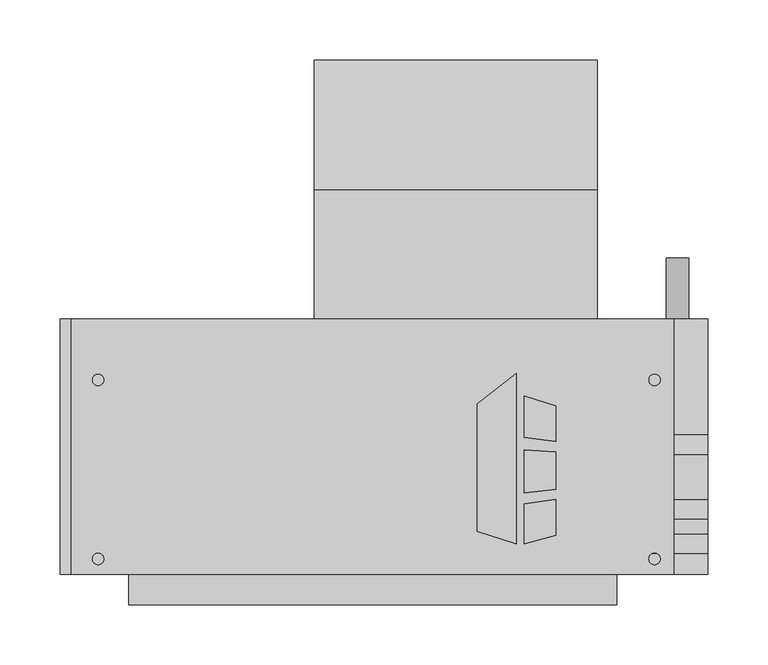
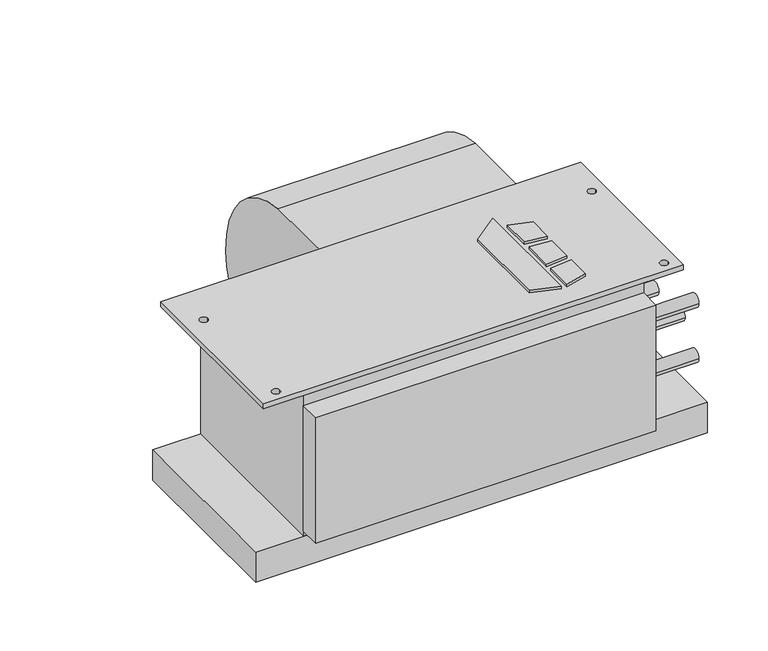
"""IFC4 building model written with IfcOpenShell, lengths in millimetres: proxy geometry, Concealed_Horizontal_Fan_Coil_Unit_-_CHY_-_IEC_-_4-Pipe_RH_2022 : Size 02 - 277v/60Hz/1Ph - 4/1 Coil."""

from ifc_helpers import new_model, si_unit, point, frame, frame_2d, origin, origin_with_axes, place, context, project, spatial, polyline, circle_curve, trimmed, segment, composite_curve, outline, extrude, source, transform, mapped, element, save


def mechanical_equipment_30e3efb8(model_context):
    return source(origin(), model_context, "Body", "SweptSolid", [
        extrude(outline(polyline([(239.4019761, -202.5703476), (271.9602728, -177.1330184), (271.9602728, -319.0875), (239.4019761, -308.8679201), (239.4019761, -202.5703476)])), origin_with_axes(), (0.0, 0.0, 1.0), 3.175),
        extrude(outline(polyline([(278.7186058, -230.442352), (278.7186058, -195.9624379), (304.8, -204.1490115), (304.8, -233.6447446), (278.7186058, -230.442352)])), origin_with_axes(), (0.0, 0.0, 1.0), 3.175),
        extrude(outline(polyline([(304.8, -312.0990115), (278.7186058, -319.0875), (278.7186058, -285.8661996), (304.8, -282.3243564), (304.8, -312.0990115)])), origin_with_axes(), (0.0, 0.0, 1.0), 3.175),
        extrude(outline(polyline([(304.8, -242.7263277), (304.8, -273.976483), (278.7186058, -276.717748), (278.7186058, -240.8600378), (304.8, -242.7263277)])), origin_with_axes(), (0.0, 0.0, 1.0), 3.175),
        extrude(outline(composite_curve([segment(trimmed(circle_curve(frame_2d((-33.198831, -136.0299844)), 117.3559541), [point((-23.8125, -19.05))], [point((84.1375, -138.176))], False, "CARTESIAN"), True, "CONTINUOUS"), segment(trimmed(circle_curve(frame_2d((-11.5977337, -136.4250563)), 95.7512443), [point((84.1375, -138.176))], [point((-23.8125, -231.394))], False, "CARTESIAN"), True, "CONTINUOUS"), segment(trimmed(circle_curve(frame_2d((-11.6288131, -136.6666968)), 95.5076133), [point((-23.8125, -231.394))], [point((-107.1245, -138.176))], False, "CARTESIAN"), True, "CONTINUOUS"), segment(trimmed(circle_curve(frame_2d((-126.2059828, -138.4775816)), 19.0838659), [point((-107.1245, -138.176))], [point((-119.3963373, -120.65))], True, "CARTESIAN"), True, "CONTINUOUS"), segment(polyline([(-119.3963373, -120.65), (-131.7625, -120.65), (-131.7625, -19.05), (-23.8125, -19.05)]), True, "CONTINUOUS")], self_intersect=False)), frame((104.013, 0.0, 0.0), z_axis=(1.0, 0.0, 0.0), x_axis=(0.0, 1.0, 0.0)), (0.0, 0.0, 1.0), 235.712),
        extrude(outline(polyline([(403.225, -131.7625), (403.225, -344.4875), (-98.425, -344.4875), (-98.425, -131.7625), (403.225, -131.7625)]), holes=[composite_curve([segment(trimmed(circle_curve(frame_2d((-76.2, -182.5625)), 4.7625), [point((-80.9625, -182.5625))], [point((-71.4375, -182.5625))], True, "CARTESIAN"), True, "CONTINUOUS"), segment(trimmed(circle_curve(frame_2d((-76.2, -182.5625)), 4.7625), [point((-71.4375, -182.5625))], [point((-80.9625, -182.5625))], True, "CARTESIAN"), True, "CONTINUOUS")], self_intersect=False), composite_curve([segment(trimmed(circle_curve(frame_2d((-76.2, -331.7875)), 4.7625), [point((-80.9625, -331.7875))], [point((-71.4375, -331.7875))], True, "CARTESIAN"), True, "CONTINUOUS"), segment(trimmed(circle_curve(frame_2d((-76.2, -331.7875)), 4.7625), [point((-71.4375, -331.7875))], [point((-80.9625, -331.7875))], True, "CARTESIAN"), True, "CONTINUOUS")], self_intersect=False), composite_curve([segment(trimmed(circle_curve(frame_2d((387.35, -182.5625)), 4.7625), [point((382.5875, -182.5625))], [point((392.1125, -182.5625))], True, "CARTESIAN"), True, "CONTINUOUS"), segment(trimmed(circle_curve(frame_2d((387.35, -182.5625)), 4.7625), [point((392.1125, -182.5625))], [point((382.5875, -182.5625))], True, "CARTESIAN"), True, "CONTINUOUS")], self_intersect=False), composite_curve([segment(trimmed(circle_curve(frame_2d((387.35, -331.7875)), 4.7625), [point((382.5875, -331.7875))], [point((392.1125, -331.7875))], True, "CARTESIAN"), True, "CONTINUOUS"), segment(trimmed(circle_curve(frame_2d((387.35, -331.7875)), 4.7625), [point((392.1125, -331.7875))], [point((382.5875, -331.7875))], True, "CARTESIAN"), True, "CONTINUOUS")], self_intersect=False)]), frame((0.0, 0.0, -6.35), z_axis=(0.0, 0.0, 1.0), x_axis=(1.0, 0.0, 0.0)), (0.0, 0.0, 1.0), 6.35),
        extrude(outline(composite_curve([segment(trimmed(circle_curve(frame_2d((-209.55, 406.4)), 9.525), [point((-209.55, 396.875))], [point((-209.55, 415.925))], False, "CARTESIAN"), True, "CONTINUOUS"), segment(trimmed(circle_curve(frame_2d((-209.55, 406.4)), 9.525), [point((-209.55, 415.925))], [point((-209.55, 396.875))], False, "CARTESIAN"), True, "CONTINUOUS")], self_intersect=False)), frame((0.0, -131.7625, 0.0), z_axis=(0.0, 1.0, 0.0), x_axis=(0.0, 0.0, 1.0)), (0.0, 0.0, 1.0), 50.8),
        extrude(outline(polyline([(355.6, -369.8875), (-50.8, -369.8875), (-50.8, -344.4875), (355.6, -344.4875), (355.6, -369.8875)])), frame((0.0, 0.0, -177.8), z_axis=(0.0, 0.0, 1.0), x_axis=(1.0, 0.0, 0.0)), (0.0, 0.0, 1.0), 158.75),
        extrude(outline(polyline([(431.8, -131.7625), (431.8, -344.4875), (-107.95, -344.4875), (-107.95, -131.7625), (431.8, -131.7625)])), frame((0.0, 0.0, -222.25), z_axis=(0.0, 0.0, 1.0), x_axis=(1.0, 0.0, 0.0)), (0.0, 0.0, 1.0), 38.1),
        extrude(outline(composite_curve([segment(trimmed(circle_curve(frame_2d((-236.5375, -104.775)), 7.9375), [point((-244.475, -104.775))], [point((-228.6, -104.775))], False, "CARTESIAN"), True, "CONTINUOUS"), segment(trimmed(circle_curve(frame_2d((-236.5375, -104.775)), 7.9375), [point((-228.6, -104.775))], [point((-244.475, -104.775))], False, "CARTESIAN"), True, "CONTINUOUS")], self_intersect=False)), frame((355.6, 0.0, 0.0), z_axis=(1.0, 0.0, 0.0), x_axis=(0.0, 1.0, 0.0)), (0.0, 0.0, 1.0), 76.2),
        extrude(outline(composite_curve([segment(trimmed(circle_curve(frame_2d((-290.5125, -104.775)), 7.9375), [point((-298.45, -104.775))], [point((-282.575, -104.775))], False, "CARTESIAN"), True, "CONTINUOUS"), segment(trimmed(circle_curve(frame_2d((-290.5125, -104.775)), 7.9375), [point((-282.575, -104.775))], [point((-298.45, -104.775))], False, "CARTESIAN"), True, "CONTINUOUS")], self_intersect=False)), frame((355.6, 0.0, 0.0), z_axis=(1.0, 0.0, 0.0), x_axis=(0.0, 1.0, 0.0)), (0.0, 0.0, 1.0), 76.2),
        extrude(outline(composite_curve([segment(trimmed(circle_curve(frame_2d((-319.0875, -69.85)), 7.9375), [point((-327.025, -69.85))], [point((-311.15, -69.85))], False, "CARTESIAN"), True, "CONTINUOUS"), segment(trimmed(circle_curve(frame_2d((-319.0875, -69.85)), 7.9375), [point((-311.15, -69.85))], [point((-327.025, -69.85))], False, "CARTESIAN"), True, "CONTINUOUS")], self_intersect=False)), frame((355.6, 0.0, 0.0), z_axis=(1.0, 0.0, 0.0), x_axis=(0.0, 1.0, 0.0)), (0.0, 0.0, 1.0), 76.2),
        extrude(outline(composite_curve([segment(trimmed(circle_curve(frame_2d((-319.0875, -139.7)), 7.9375), [point((-327.025, -139.7))], [point((-311.15, -139.7))], False, "CARTESIAN"), True, "CONTINUOUS"), segment(trimmed(circle_curve(frame_2d((-319.0875, -139.7)), 7.9375), [point((-311.15, -139.7))], [point((-327.025, -139.7))], False, "CARTESIAN"), True, "CONTINUOUS")], self_intersect=False)), frame((355.6, 0.0, 0.0), z_axis=(1.0, 0.0, 0.0), x_axis=(0.0, 1.0, 0.0)), (0.0, 0.0, 1.0), 76.2),
        extrude(outline(polyline([(355.6, -344.4875), (-50.8, -344.4875), (-50.8, -131.7625), (355.6, -131.7625), (355.6, -344.4875)])), frame((0.0, 0.0, -184.15), z_axis=(0.0, 0.0, 1.0), x_axis=(1.0, 0.0, 0.0)), (0.0, 0.0, 1.0), 177.8),
    ])


if __name__ == "__main__":
    model = new_model("IFC4")
    model_context = context("Model", 3, world=origin())
    ifc_project = project(units=[si_unit("LENGTHUNIT", "METRE", prefix="MILLI")], contexts=[model_context])
    site = spatial("IfcSite", under=ifc_project)
    building = spatial("IfcBuilding", under=site)
    placement = place(None, origin())
    mechanical_equipment_shape = mechanical_equipment_30e3efb8(model_context)
    element("IfcBuildingElementProxy", 1, Name="Concealed_Horizontal_Fan_Coil_Unit_-_CHY_-_IEC_-_4-Pipe_RH_2022 : Size 02 - 277v/60Hz/1Ph - 4/1 Coil", ObjectType="Concealed_Horizontal_Fan_Coil_Unit_-_CHY_-_IEC_-_4-Pipe_RH_2022 : Size 02 - 277v/60Hz/1Ph - 4/1 Coil", at=placement, inside=building, context=model_context, shape_type="MappedRepresentation", body=[
        mapped(mechanical_equipment_shape, transform((0.0, 0.0, 0.0), x_axis=(1.0, 0.0, 0.0), y_axis=(0.0, 1.0, 0.0), z_axis=(0.0, 0.0, 1.0))),
    ])
    save(model, "model.ifc")
